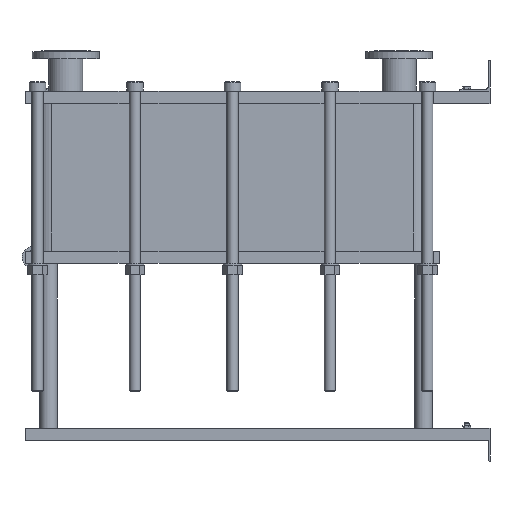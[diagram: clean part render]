
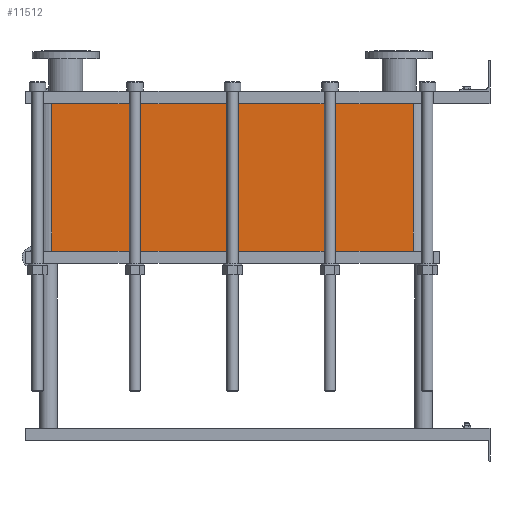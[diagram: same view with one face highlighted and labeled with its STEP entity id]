
A CAD part, left-side view. The second image highlights one B-rep face of the part: STEP entity #11512.
In plain terms, the highlighted planar face has unit normal (-1, 0, 0).
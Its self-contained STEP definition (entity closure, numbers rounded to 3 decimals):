
#1129=LINE('',#23232,#2102);
#1130=LINE('',#23236,#2103);
#1131=LINE('',#23238,#2104);
#1132=LINE('',#23239,#2105);
#2102=VECTOR('',#15887,10.);
#2103=VECTOR('',#15892,10.);
#2104=VECTOR('',#15893,10.);
#2105=VECTOR('',#15894,10.);
#3267=FACE_OUTER_BOUND('',#4093,.T.);
#4093=EDGE_LOOP('',(#10103,#10104,#10105,#10106));
#5642=VERTEX_POINT('',#23229);
#5643=VERTEX_POINT('',#23231);
#5644=VERTEX_POINT('',#23235);
#5645=VERTEX_POINT('',#23237);
#7159=EDGE_CURVE('',#5643,#5642,#1129,.T.);
#7161=EDGE_CURVE('',#5642,#5644,#1130,.T.);
#7162=EDGE_CURVE('',#5645,#5644,#1131,.T.);
#7163=EDGE_CURVE('',#5645,#5643,#1132,.T.);
#10103=ORIENTED_EDGE('',*,*,#7161,.T.);
#10104=ORIENTED_EDGE('',*,*,#7162,.F.);
#10105=ORIENTED_EDGE('',*,*,#7163,.T.);
#10106=ORIENTED_EDGE('',*,*,#7159,.T.);
#10857=PLANE('',#12751);
#11512=ADVANCED_FACE('',(#3267),#10857,.T.);
#12751=AXIS2_PLACEMENT_3D('',#23234,#15890,#15891);
#15887=DIRECTION('',(0.,0.,-1.));
#15890=DIRECTION('center_axis',(-1.,0.,0.));
#15891=DIRECTION('ref_axis',(0.,1.,0.));
#15892=DIRECTION('',(0.,-1.,0.));
#15893=DIRECTION('',(0.,0.,-1.));
#15894=DIRECTION('',(0.,1.,0.));
#23229=CARTESIAN_POINT('',(-200.,1414.,-476.1));
#23231=CARTESIAN_POINT('',(-200.,1414.,0.));
#23232=CARTESIAN_POINT('',(-200.,1414.,0.));
#23234=CARTESIAN_POINT('Origin',(-200.,248.,0.));
#23235=CARTESIAN_POINT('',(-200.,248.,-476.1));
#23236=CARTESIAN_POINT('',(-200.,539.5,-476.1));
#23237=CARTESIAN_POINT('',(-200.,248.,0.));
#23238=CARTESIAN_POINT('',(-200.,248.,0.));
#23239=CARTESIAN_POINT('',(-200.,248.,0.));
